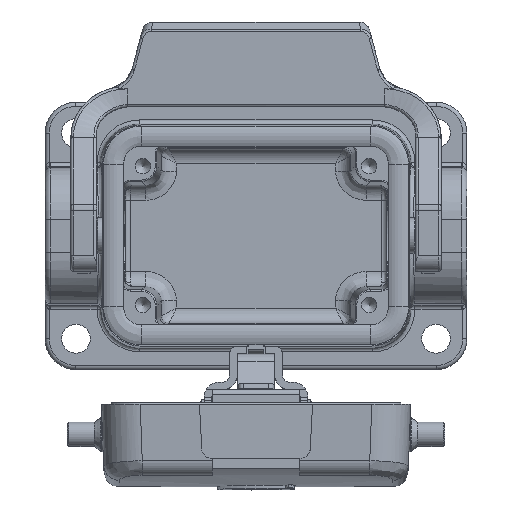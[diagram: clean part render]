
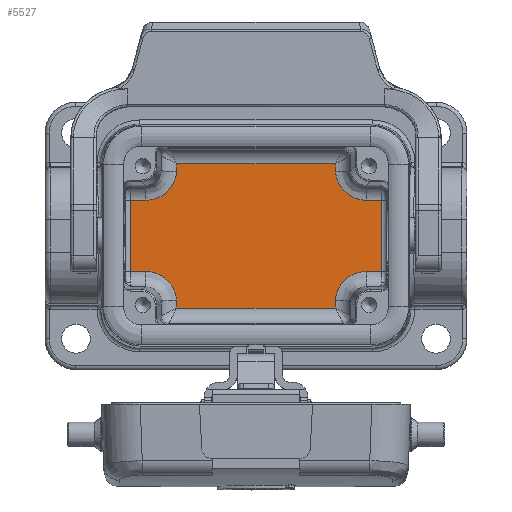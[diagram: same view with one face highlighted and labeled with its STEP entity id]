
A CAD part, top view. The second image highlights one B-rep face of the part: STEP entity #5527.
In plain terms, the highlighted planar face has unit normal (0, 0, 1).
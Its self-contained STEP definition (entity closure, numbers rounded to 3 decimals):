
#3643=ELLIPSE('',#19005,6.003,6.);
#3644=ELLIPSE('',#19006,6.003,6.);
#3645=ELLIPSE('',#19007,6.003,6.);
#3646=ELLIPSE('',#19008,6.003,6.);
#4131=FACE_OUTER_BOUND('',#7008,.T.);
#5527=ADVANCED_FACE('',(#4131),#6120,.F.);
#6120=PLANE('',#19009);
#7008=EDGE_LOOP('',(#11660,#11661,#11662,#11663,#11664,#11665,#11666,#11667,
#11668,#11669,#11670,#11671,#11672,#11673,#11674,#11675));
#7993=LINE('',#32888,#8953);
#7994=LINE('',#32890,#8954);
#7995=LINE('',#32892,#8955);
#7996=LINE('',#32896,#8956);
#7997=LINE('',#32898,#8957);
#7998=LINE('',#32900,#8958);
#7999=LINE('',#32904,#8959);
#8000=LINE('',#32906,#8960);
#8001=LINE('',#32908,#8961);
#8002=LINE('',#32912,#8962);
#8003=LINE('',#32914,#8963);
#8004=LINE('',#32916,#8964);
#8953=VECTOR('',#21444,1.);
#8954=VECTOR('',#21445,1.);
#8955=VECTOR('',#21446,1.);
#8956=VECTOR('',#21449,1.);
#8957=VECTOR('',#21450,1.);
#8958=VECTOR('',#21451,1.);
#8959=VECTOR('',#21454,1.);
#8960=VECTOR('',#21455,1.);
#8961=VECTOR('',#21456,1.);
#8962=VECTOR('',#21459,1.);
#8963=VECTOR('',#21460,1.);
#8964=VECTOR('',#21461,1.);
#11660=ORIENTED_EDGE('',*,*,#16363,.T.);
#11661=ORIENTED_EDGE('',*,*,#16364,.T.);
#11662=ORIENTED_EDGE('',*,*,#16365,.T.);
#11663=ORIENTED_EDGE('',*,*,#16366,.T.);
#11664=ORIENTED_EDGE('',*,*,#16367,.T.);
#11665=ORIENTED_EDGE('',*,*,#16368,.T.);
#11666=ORIENTED_EDGE('',*,*,#16369,.T.);
#11667=ORIENTED_EDGE('',*,*,#16370,.T.);
#11668=ORIENTED_EDGE('',*,*,#16371,.T.);
#11669=ORIENTED_EDGE('',*,*,#16372,.T.);
#11670=ORIENTED_EDGE('',*,*,#16373,.T.);
#11671=ORIENTED_EDGE('',*,*,#16374,.T.);
#11672=ORIENTED_EDGE('',*,*,#16375,.T.);
#11673=ORIENTED_EDGE('',*,*,#16376,.T.);
#11674=ORIENTED_EDGE('',*,*,#16377,.T.);
#11675=ORIENTED_EDGE('',*,*,#16378,.T.);
#14581=VERTEX_POINT('',#32886);
#14582=VERTEX_POINT('',#32887);
#14583=VERTEX_POINT('',#32889);
#14584=VERTEX_POINT('',#32891);
#14585=VERTEX_POINT('',#32893);
#14586=VERTEX_POINT('',#32895);
#14587=VERTEX_POINT('',#32897);
#14588=VERTEX_POINT('',#32899);
#14589=VERTEX_POINT('',#32901);
#14590=VERTEX_POINT('',#32903);
#14591=VERTEX_POINT('',#32905);
#14592=VERTEX_POINT('',#32907);
#14593=VERTEX_POINT('',#32909);
#14594=VERTEX_POINT('',#32911);
#14595=VERTEX_POINT('',#32913);
#14596=VERTEX_POINT('',#32915);
#16363=EDGE_CURVE('',#14581,#14582,#3643,.T.);
#16364=EDGE_CURVE('',#14582,#14583,#7993,.T.);
#16365=EDGE_CURVE('',#14583,#14584,#7994,.T.);
#16366=EDGE_CURVE('',#14584,#14585,#7995,.T.);
#16367=EDGE_CURVE('',#14585,#14586,#3644,.T.);
#16368=EDGE_CURVE('',#14586,#14587,#7996,.T.);
#16369=EDGE_CURVE('',#14587,#14588,#7997,.T.);
#16370=EDGE_CURVE('',#14588,#14589,#7998,.T.);
#16371=EDGE_CURVE('',#14589,#14590,#3645,.T.);
#16372=EDGE_CURVE('',#14590,#14591,#7999,.T.);
#16373=EDGE_CURVE('',#14591,#14592,#8000,.T.);
#16374=EDGE_CURVE('',#14592,#14593,#8001,.T.);
#16375=EDGE_CURVE('',#14593,#14594,#3646,.T.);
#16376=EDGE_CURVE('',#14594,#14595,#8002,.T.);
#16377=EDGE_CURVE('',#14595,#14596,#8003,.T.);
#16378=EDGE_CURVE('',#14596,#14581,#8004,.T.);
#19005=AXIS2_PLACEMENT_3D('',#32885,#21442,#21443);
#19006=AXIS2_PLACEMENT_3D('',#32894,#21447,#21448);
#19007=AXIS2_PLACEMENT_3D('',#32902,#21452,#21453);
#19008=AXIS2_PLACEMENT_3D('',#32910,#21457,#21458);
#19009=AXIS2_PLACEMENT_3D('',#32917,#21462,#21463);
#21442=DIRECTION('',(0.,0.,-1.));
#21443=DIRECTION('',(-0.843,0.538,0.));
#21444=DIRECTION('',(1.,0.,0.));
#21445=DIRECTION('',(0.,1.,0.));
#21446=DIRECTION('',(-1.,0.,0.));
#21447=DIRECTION('',(0.,0.,-1.));
#21448=DIRECTION('',(0.843,0.538,0.));
#21449=DIRECTION('',(0.,1.,0.));
#21450=DIRECTION('',(-1.,0.,0.));
#21451=DIRECTION('',(0.,-1.,0.));
#21452=DIRECTION('',(0.,0.,-1.));
#21453=DIRECTION('',(0.843,-0.538,0.));
#21454=DIRECTION('',(-1.,0.,0.));
#21455=DIRECTION('',(0.,-1.,0.));
#21456=DIRECTION('',(1.,0.,0.));
#21457=DIRECTION('',(0.,0.,-1.));
#21458=DIRECTION('',(-0.843,-0.538,0.));
#21459=DIRECTION('',(0.,-1.,0.));
#21460=DIRECTION('',(1.,0.,0.));
#21461=DIRECTION('',(0.,1.,0.));
#21462=DIRECTION('',(0.,0.,-1.));
#21463=DIRECTION('',(-1.,0.,0.));
#32885=CARTESIAN_POINT('',(21.424,-12.925,-35.95));
#32886=CARTESIAN_POINT('',(15.436,-12.507,-35.95));
#32887=CARTESIAN_POINT('',(21.421,-6.924,-35.95));
#32888=CARTESIAN_POINT('',(-25.425,-6.924,-35.95));
#32889=CARTESIAN_POINT('',(24.441,-6.924,-35.95));
#32890=CARTESIAN_POINT('',(24.441,9.872,-35.95));
#32891=CARTESIAN_POINT('',(24.441,6.924,-35.95));
#32892=CARTESIAN_POINT('',(-25.425,6.924,-35.95));
#32893=CARTESIAN_POINT('',(21.421,6.924,-35.95));
#32894=CARTESIAN_POINT('',(21.424,12.925,-35.95));
#32895=CARTESIAN_POINT('',(15.436,12.507,-35.95));
#32896=CARTESIAN_POINT('',(15.436,17.75,-35.95));
#32897=CARTESIAN_POINT('',(15.436,14.041,-35.95));
#32898=CARTESIAN_POINT('',(-16.859,14.041,-35.95));
#32899=CARTESIAN_POINT('',(-15.436,14.041,-35.95));
#32900=CARTESIAN_POINT('',(-15.436,17.75,-35.95));
#32901=CARTESIAN_POINT('',(-15.436,12.507,-35.95));
#32902=CARTESIAN_POINT('',(-21.424,12.925,-35.95));
#32903=CARTESIAN_POINT('',(-21.421,6.924,-35.95));
#32904=CARTESIAN_POINT('',(-25.425,6.924,-35.95));
#32905=CARTESIAN_POINT('',(-24.441,6.924,-35.95));
#32906=CARTESIAN_POINT('',(-24.441,-9.872,-35.95));
#32907=CARTESIAN_POINT('',(-24.441,-6.924,-35.95));
#32908=CARTESIAN_POINT('',(-25.425,-6.924,-35.95));
#32909=CARTESIAN_POINT('',(-21.421,-6.924,-35.95));
#32910=CARTESIAN_POINT('',(-21.424,-12.925,-35.95));
#32911=CARTESIAN_POINT('',(-15.436,-12.507,-35.95));
#32912=CARTESIAN_POINT('',(-15.436,17.75,-35.95));
#32913=CARTESIAN_POINT('',(-15.436,-14.041,-35.95));
#32914=CARTESIAN_POINT('',(16.859,-14.041,-35.95));
#32915=CARTESIAN_POINT('',(15.436,-14.041,-35.95));
#32916=CARTESIAN_POINT('',(15.436,17.75,-35.95));
#32917=CARTESIAN_POINT('',(-25.425,17.75,-35.95));
